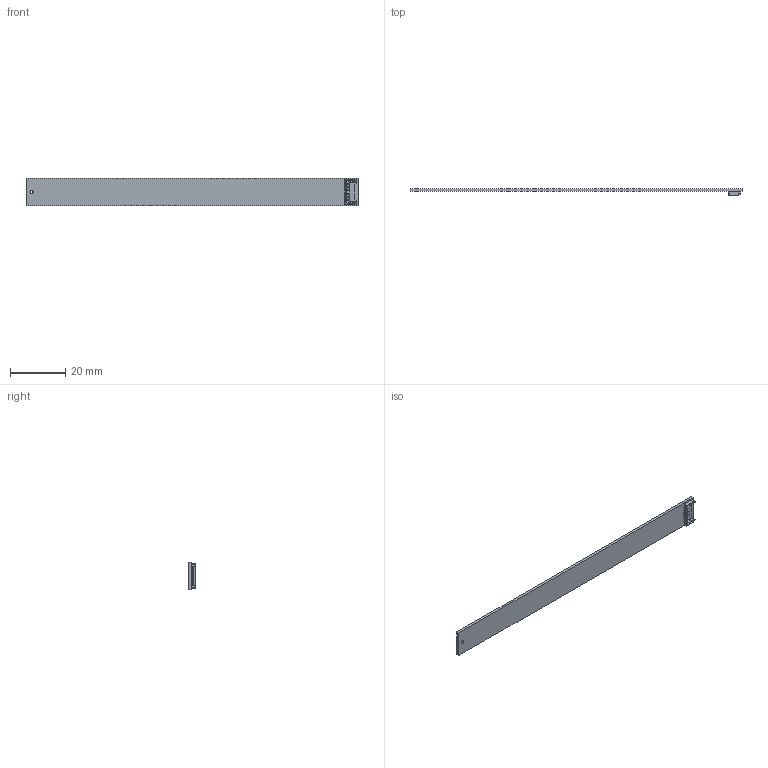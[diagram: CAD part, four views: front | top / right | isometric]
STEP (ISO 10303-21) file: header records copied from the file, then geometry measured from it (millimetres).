
FILE_DESCRIPTION (( 'STEP AP214' ), '1' );
FILE_NAME ('033-2019_0001_(100mm_B6_Linear_Sensor_3D).STEP', '2025-06-02T09:52:11', ( '' ), ( '' ), 'SwSTEP 2.0', 'SolidWorks 2024', '' );
FILE_SCHEMA (( 'AUTOMOTIVE_DESIGN' ));
Length unit declared in the file: millimetre
Products named in the file (3): 033-2019_0001_(100mm_B6_Linear_Sensor_3D); 781715006; 010-0182_0001_(100mm_B6_LinearSensorPCB)
Assembly tree (2 placements, depth 2):
  033-2019_0001_(100mm_B6_Linear_Sensor_3D)
    010-0182_0001_(100mm_B6_LinearSensorPCB)
    781715006
Bounding box: 120 x 2.45 x 10 mm (x, y, z)
Volume: 1217.1 mm3; surface area: 2796.9 mm2
Topology: 2 solids, 2 shells, 274 faces, 796 edges, 526 vertices
Faces by surface type: plane 264, cylinder 10
Entity records: 9036 total; most frequent: CARTESIAN_POINT 1601, ORIENTED_EDGE 1592, DIRECTION 1374, EDGE_CURVE 796, VECTOR 776, LINE 776, VERTEX_POINT 526, AXIS2_PLACEMENT_3D 299
